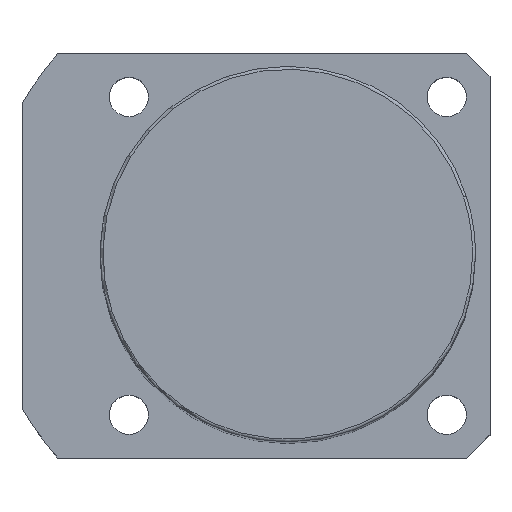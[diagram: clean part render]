
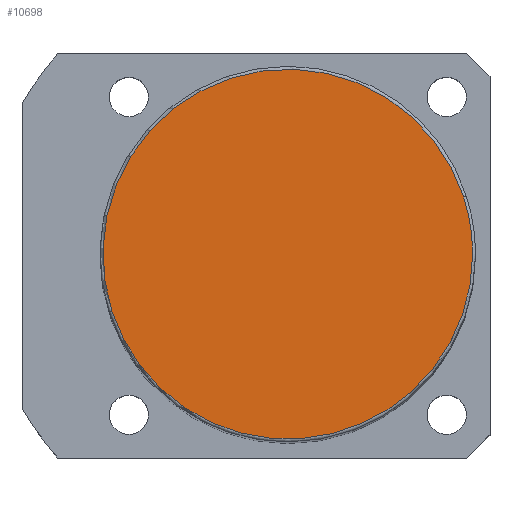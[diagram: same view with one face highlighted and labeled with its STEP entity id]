
A CAD part, top view. The second image highlights one B-rep face of the part: STEP entity #10698.
In plain terms, the highlighted planar face has unit normal (0, 0, 1).
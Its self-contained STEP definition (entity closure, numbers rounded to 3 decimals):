
#10664=CARTESIAN_POINT('',(32.0,0.0,186.0));
#10665=VERTEX_POINT('',#10664);
#10666=CARTESIAN_POINT('',(30.434,9.889,186.0));
#10667=VERTEX_POINT('',#10666);
#10668=CARTESIAN_POINT('',(0.0,0.0,186.0));
#10669=DIRECTION('',(0.0,0.0,1.0));
#10670=DIRECTION('',(1.0,0.0,0.0));
#10671=AXIS2_PLACEMENT_3D('',#10668,#10669,#10670);
#10672=CIRCLE('',#10671,32.0);
#10673=EDGE_CURVE('no 4858',#10665,#10667,#10672,.T.);
#10674=ORIENTED_EDGE('',*,*,#10673,.T.);
#10675=CARTESIAN_POINT('',(-30.434,-9.889,186.0));
#10676=VERTEX_POINT('',#10675);
#10677=CARTESIAN_POINT('',(0.0,0.0,186.0));
#10678=DIRECTION('',(0.0,0.0,1.0));
#10679=DIRECTION('',(1.0,0.0,0.0));
#10680=AXIS2_PLACEMENT_3D('',#10677,#10678,#10679);
#10681=CIRCLE('',#10680,32.0);
#10682=EDGE_CURVE('no 4864',#10667,#10676,#10681,.T.);
#10683=ORIENTED_EDGE('',*,*,#10682,.T.);
#10684=CARTESIAN_POINT('',(0.0,0.0,186.0));
#10685=DIRECTION('',(0.0,0.0,1.0));
#10686=DIRECTION('',(1.0,0.0,0.0));
#10687=AXIS2_PLACEMENT_3D('',#10684,#10685,#10686);
#10688=CIRCLE('',#10687,32.0);
#10689=EDGE_CURVE('no 4868',#10676,#10665,#10688,.T.);
#10690=ORIENTED_EDGE('',*,*,#10689,.T.);
#10691=EDGE_LOOP('',(#10674,#10683,#10690));
#10692=FACE_OUTER_BOUND('',#10691,.T.);
#10693=CARTESIAN_POINT('',(0.0,0.0,186.0));
#10694=DIRECTION('',(0.0,0.0,1.0));
#10695=DIRECTION('',(1.0,0.0,0.0));
#10696=AXIS2_PLACEMENT_3D('',#10693,#10694,#10695);
#10697=PLANE('',#10696);
#10698=ADVANCED_FACE('no 4849',(#10692),#10697,.T.);
